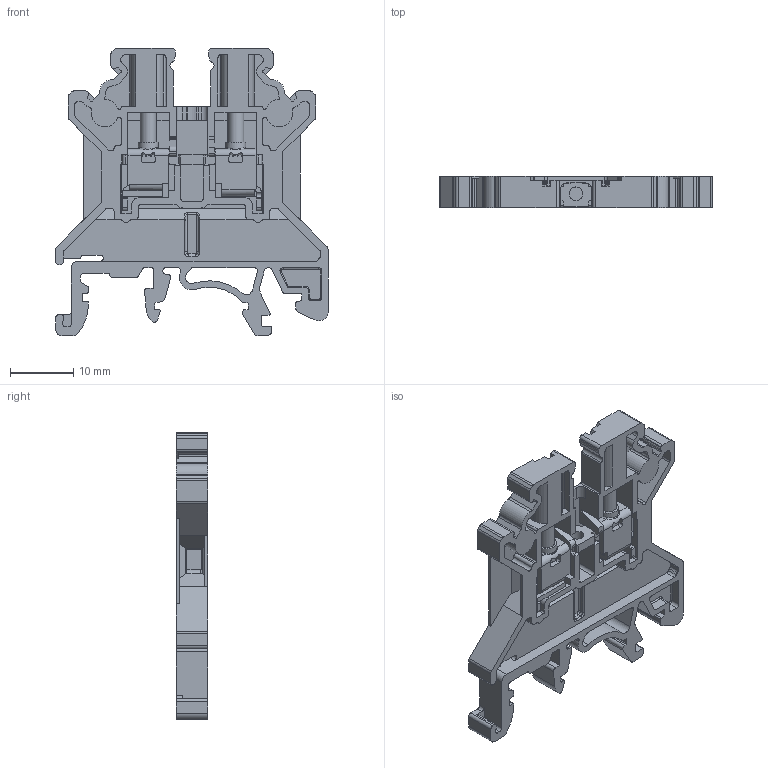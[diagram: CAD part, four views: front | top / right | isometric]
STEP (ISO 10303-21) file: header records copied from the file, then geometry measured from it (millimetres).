
FILE_DESCRIPTION(/* description */ ('Unknown'),/* implementation_level */ '2;1');
FILE_NAME(/* name */ 'CTS2.5UN',/* time_stamp */ '2019-01-14T14:20:56+06:00',/* author */ ('Unknown'),/* organization */ ('Unknown'),/* preprocessor_version */ 'ST-DEVELOPER v16.7',/* originating_system */ 'DEX',/* authorisation */ $);
FILE_SCHEMA (('AUTOMOTIVE_DESIGN {1 0 10303 214 3 1 1}'));
Length unit declared in the file: millimetre
Products named in the file (1): Part6
Bounding box: 43 x 4.95 x 45.3 mm (x, y, z)
Volume: 3616.9 mm3; surface area: 6364.5 mm2
Topology: 1 solids, 1 shells, 1046 faces, 3015 edges, 1965 vertices
Faces by surface type: plane 596, cylinder 396, bspline 30, torus 20, sphere 2, cone 2
Full cylindrical faces by diameter (mm): 2.121 x3, 2.5 x2, 2.6 x2, 3.2 x2
Entity records: 42494 total; most frequent: CARTESIAN_POINT 7340, ORIENTED_EDGE 5982, DIRECTION 5731, EDGE_CURVE 2991, LINE 2083, VECTOR 2083, VERTEX_POINT 1954, AXIS2_PLACEMENT_3D 1824
